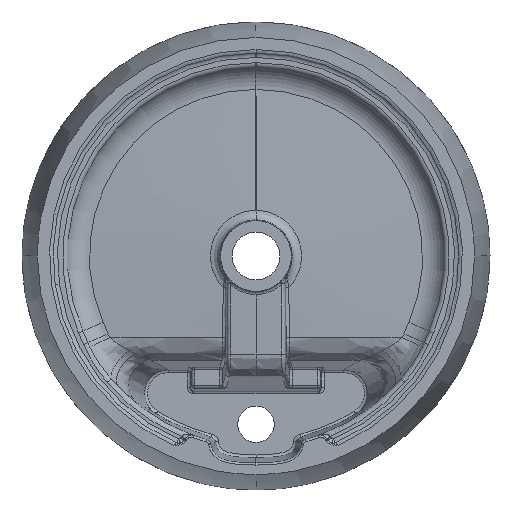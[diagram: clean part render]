
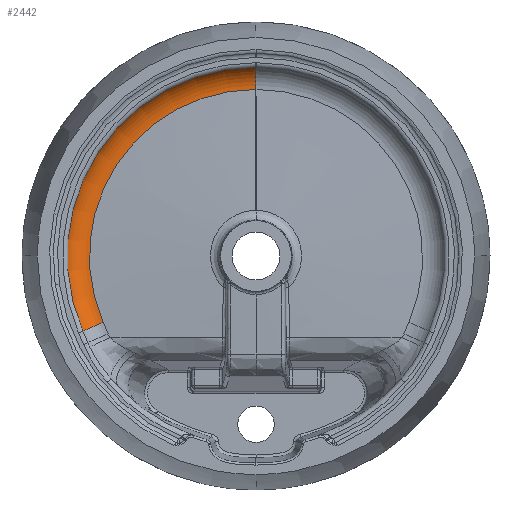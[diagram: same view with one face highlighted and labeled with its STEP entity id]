
A CAD part, front view. The second image highlights one B-rep face of the part: STEP entity #2442.
In plain terms, the highlighted toroidal (fillet/blend) face has major radius 161.072 mm and minor radius 23 mm.
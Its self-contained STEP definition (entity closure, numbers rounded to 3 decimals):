
#80 = CARTESIAN_POINT ( 'NONE',  ( -147.742, -115.212, -64.186 ) ) ;
#311 = CARTESIAN_POINT ( 'NONE',  ( 0., -100.704, 179.03 ) ) ;
#913 = CARTESIAN_POINT ( 'NONE',  ( -166.342, -104.359, -72.264 ) ) ;
#960 = EDGE_CURVE ( 'NONE', #16135, #10192, #13648, .T. ) ;
#978 = CARTESIAN_POINT ( 'NONE',  ( 0., -92.235, 160.023 ) ) ;
#1252 = CARTESIAN_POINT ( 'NONE',  ( -0.004, -115.212, -0.018 ) ) ;
#1397 = AXIS2_PLACEMENT_3D ( 'NONE', #80, #10650, #14475 ) ;
#1531 = CARTESIAN_POINT ( 'NONE',  ( 0., -104.359, 181.332 ) ) ;
#1867 = CARTESIAN_POINT ( 'NONE',  ( 0., -92.138, 162.176 ) ) ;
#2318 = AXIS2_PLACEMENT_3D ( 'NONE', #8012, #14741, #7073 ) ;
#2442 = ADVANCED_FACE ( 'NONE', ( #3899 ), #10151, .F. ) ;
#3899 = FACE_OUTER_BOUND ( 'NONE', #7700, .T. ) ;
#5038 = CIRCLE ( 'NONE', #2318, 181.35 ) ;
#5259 = DIRECTION ( 'NONE',  ( 0., 0., 1. ) ) ;
#5436 = CARTESIAN_POINT ( 'NONE',  ( 0., -93.355, 168.531 ) ) ;
#5859 = DIRECTION ( 'NONE',  ( 0., 0., 1. ) ) ;
#7028 = ORIENTED_EDGE ( 'NONE', *, *, #14480, .T. ) ;
#7033 = VERTEX_POINT ( 'NONE', #978 ) ;
#7052 = CARTESIAN_POINT ( 'NONE',  ( 0., -97.617, 176.022 ) ) ;
#7073 = DIRECTION ( 'NONE',  ( 0., 0., 1. ) ) ;
#7375 = CARTESIAN_POINT ( 'NONE',  ( -0.004, -92.235, -0.018 ) ) ;
#7700 = EDGE_LOOP ( 'NONE', ( #7028, #8779, #11823, #12229 ) ) ;
#8012 = CARTESIAN_POINT ( 'NONE',  ( -0.004, -104.359, -0.018 ) ) ;
#8086 = CARTESIAN_POINT ( 'NONE',  ( 0., -92.346, 164.342 ) ) ;
#8413 = DIRECTION ( 'NONE',  ( 0., -1., 0. ) ) ;
#8504 = AXIS2_PLACEMENT_3D ( 'NONE', #1252, #9095, #5259 ) ;
#8598 = B_SPLINE_CURVE_WITH_KNOTS ( 'NONE', 3,
 ( #14896, #1867, #8086, #5436, #14718, #13193, #7052, #311, #12255, #1531 ),
 .UNSPECIFIED., .F., .F.,
 ( 4, 2, 2, 2, 4 ),
 ( 0., 0.25, 0.5, 0.75, 1. ),
 .UNSPECIFIED. ) ;
#8779 = ORIENTED_EDGE ( 'NONE', *, *, #12983, .F. ) ;
#8786 = EDGE_CURVE ( 'NONE', #7033, #16135, #12369, .T. ) ;
#9095 = DIRECTION ( 'NONE',  ( 0., 1., 0. ) ) ;
#9385 = CARTESIAN_POINT ( 'NONE',  ( -146.797, -92.235, -63.775 ) ) ;
#10151 = TOROIDAL_SURFACE ( 'NONE', #8504, 161.072, 23. ) ;
#10192 = VERTEX_POINT ( 'NONE', #913 ) ;
#10650 = DIRECTION ( 'NONE',  ( -0.398, 0., 0.917 ) ) ;
#11823 = ORIENTED_EDGE ( 'NONE', *, *, #960, .F. ) ;
#12229 = ORIENTED_EDGE ( 'NONE', *, *, #8786, .F. ) ;
#12255 = CARTESIAN_POINT ( 'NONE',  ( 0., -102.459, 180.315 ) ) ;
#12369 = CIRCLE ( 'NONE', #15888, 160.041 ) ;
#12983 = EDGE_CURVE ( 'NONE', #10192, #13631, #5038, .T. ) ;
#13193 = CARTESIAN_POINT ( 'NONE',  ( 0., -96.287, 174.3 ) ) ;
#13631 = VERTEX_POINT ( 'NONE', #14118 ) ;
#13648 = CIRCLE ( 'NONE', #1397, 23. ) ;
#14118 = CARTESIAN_POINT ( 'NONE',  ( 0., -104.359, 181.332 ) ) ;
#14475 = DIRECTION ( 'NONE',  ( 0.917, 0., 0.398 ) ) ;
#14480 = EDGE_CURVE ( 'NONE', #7033, #13631, #8598, .T. ) ;
#14718 = CARTESIAN_POINT ( 'NONE',  ( 0., -94.155, 170.555 ) ) ;
#14741 = DIRECTION ( 'NONE',  ( 0., 1., 0. ) ) ;
#14896 = CARTESIAN_POINT ( 'NONE',  ( 0., -92.235, 160.023 ) ) ;
#15888 = AXIS2_PLACEMENT_3D ( 'NONE', #7375, #8413, #5859 ) ;
#16135 = VERTEX_POINT ( 'NONE', #9385 ) ;
